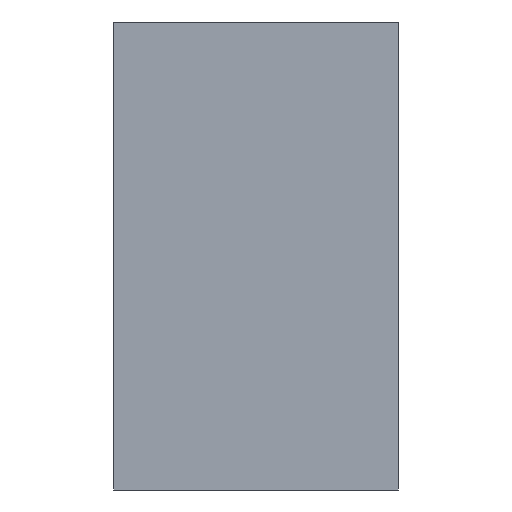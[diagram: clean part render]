
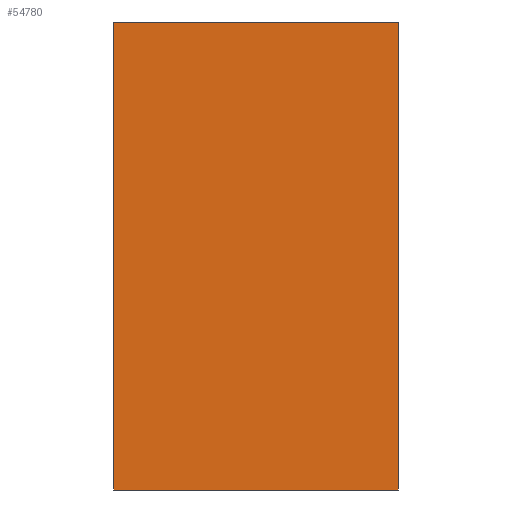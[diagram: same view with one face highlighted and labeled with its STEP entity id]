
A CAD part, front view. The second image highlights one B-rep face of the part: STEP entity #54780.
In plain terms, the highlighted planar face has unit normal (0, -1, 0).
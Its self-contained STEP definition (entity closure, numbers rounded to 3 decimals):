
#2286=FACE_OUTER_BOUND('',#5276,.T.);
#5276=EDGE_LOOP('',(#41872,#41873,#41874,#41875));
#10392=LINE('',#78308,#18038);
#10399=LINE('',#78321,#18045);
#10510=LINE('',#78610,#18156);
#10511=LINE('',#78611,#18157);
#18038=VECTOR('',#64106,10.);
#18045=VECTOR('',#64117,10.);
#18156=VECTOR('',#64462,10.);
#18157=VECTOR('',#64463,10.);
#24767=VERTEX_POINT('',#78305);
#24768=VERTEX_POINT('',#78307);
#24772=VERTEX_POINT('',#78320);
#24833=VERTEX_POINT('',#78609);
#30885=EDGE_CURVE('',#24768,#24767,#10392,.T.);
#30892=EDGE_CURVE('',#24772,#24768,#10399,.T.);
#31034=EDGE_CURVE('',#24767,#24833,#10510,.T.);
#31035=EDGE_CURVE('',#24833,#24772,#10511,.T.);
#41872=ORIENTED_EDGE('',*,*,#30885,.T.);
#41873=ORIENTED_EDGE('',*,*,#31034,.T.);
#41874=ORIENTED_EDGE('',*,*,#31035,.T.);
#41875=ORIENTED_EDGE('',*,*,#30892,.T.);
#52175=PLANE('',#57586);
#54780=ADVANCED_FACE('',(#2286),#52175,.T.);
#57586=AXIS2_PLACEMENT_3D('',#78608,#64460,#64461);
#64106=DIRECTION('',(0.,0.,-1.));
#64117=DIRECTION('',(-1.,0.,0.));
#64460=DIRECTION('center_axis',(0.,-1.,0.));
#64461=DIRECTION('ref_axis',(0.,0.,-1.));
#64462=DIRECTION('',(1.,0.,0.));
#64463=DIRECTION('',(0.,0.,1.));
#78305=CARTESIAN_POINT('',(-260.,-690.,-435.));
#78307=CARTESIAN_POINT('',(-260.,-690.,402.708));
#78308=CARTESIAN_POINT('',(-260.,-690.,275.));
#78320=CARTESIAN_POINT('',(250.,-690.,402.708));
#78321=CARTESIAN_POINT('',(-260.,-690.,402.708));
#78608=CARTESIAN_POINT('Origin',(250.,-690.,275.));
#78609=CARTESIAN_POINT('',(250.,-690.,-435.));
#78610=CARTESIAN_POINT('',(-260.,-690.,-435.));
#78611=CARTESIAN_POINT('',(250.,-690.,275.));
